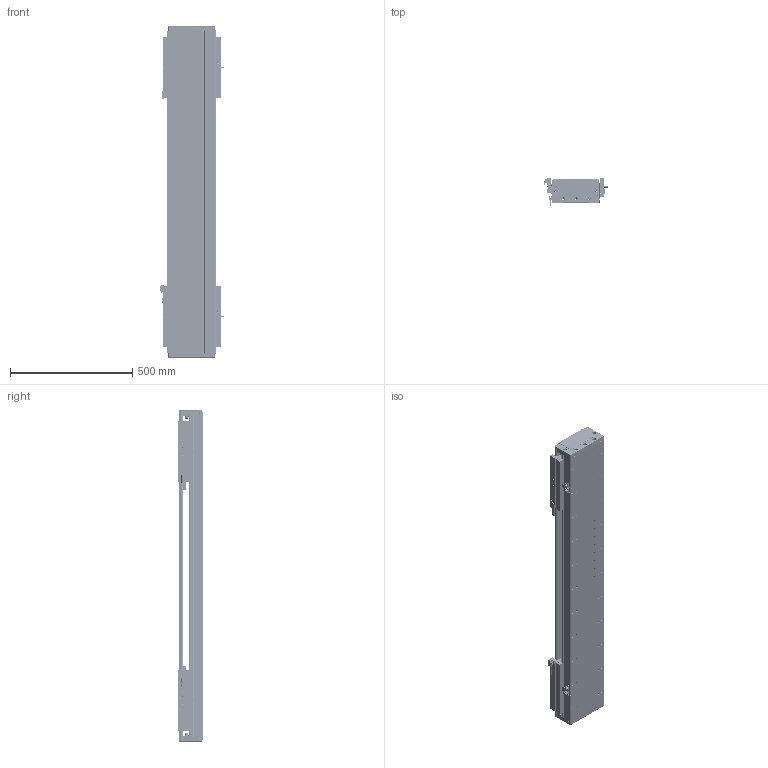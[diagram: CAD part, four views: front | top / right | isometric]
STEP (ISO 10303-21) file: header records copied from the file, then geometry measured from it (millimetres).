
FILE_DESCRIPTION (( 'STEP AP203' ), '1' );
FILE_NAME ('DA-C195-2-C3-T740-C010-0.2 眻盄萇儂.STEP', '2025-08-14T02:25:46', ( '' ), ( '' ), 'SwSTEP 2.0', 'SolidWorks 2019', '' );
FILE_SCHEMA (( 'CONFIG_CONTROL_DESIGN' ));
Length unit declared in the file: millimetre
Products named in the file (16): IU-CU195-L-00 菁釱(L1320); DKW-GYP-ZJ-00 笢潔嫖萇覜茼え; 葩璃 DA95-GT-T-00; CU195-C3賑輸-俋楷; DA165-GYP-00 光电感应片(默认); DKW-KGZ-ZJ-00 中间光电开关支架; PM-T45ㄗ侂狟ㄘ; DKW168-HXJ-ZJ-00 笢潔滅袉砎蝶; MS200 棠掑喜S315-T240; IU-CU195-L 菁釱絳寢; DA-C195-2-C3-T740-C010-0.2 眻盄萇儂; 66156-0001-003-00 裔啣; LMT黍杅芛; PM-Y65嫖萇羲壽郪璃; DA95-HXJ-00 遣喳砎蝶; DA195-DG-H-00  端盖（压铸镂空版）
Assembly tree (28 placements, depth 3):
  DA-C195-2-C3-T740-C010-0.2 眻盄萇儂
    IU-CU195-L 菁釱絳寢
      IU-CU195-L-00 菁釱(L1320)
      葩璃 DA95-GT-T-00  x4
    LMT黍杅芛  x2
    MS200 棠掑喜S315-T240
    PM-T45ㄗ侂狟ㄘ  x4
    DA165-GYP-00 光电感应片(默认)  x2
    DA195-DG-H-00  端盖（压铸镂空版）  x2
    DA95-HXJ-00 遣喳砎蝶  x4
    PM-Y65嫖萇羲壽郪璃
    66156-0001-003-00 裔啣
    DKW168-HXJ-ZJ-00 笢潔滅袉砎蝶
    DKW-GYP-ZJ-00 笢潔嫖萇覜茼え
    DKW-KGZ-ZJ-00 中间光电开关支架
    CU195-C3賑輸-俋楷  x2
Bounding box: 258.2 x 115.6 x 1360 mm (x, y, z)
Volume: 11319032.2 mm3; surface area: 3103086.4 mm2
Topology: 146 solids, 218 shells, 7820 faces, 19840 edges, 12087 vertices
Faces by surface type: cylinder 3248, plane 2788, cone 914, bspline 718, torus 80, sphere 72
Entity records: 157733 total; most frequent: CARTESIAN_POINT 48350, ORIENTED_EDGE 22866, DIRECTION 21712, EDGE_CURVE 11433, AXIS2_PLACEMENT_3D 7923, VERTEX_POINT 7240, VECTOR 5866, LINE 5866
